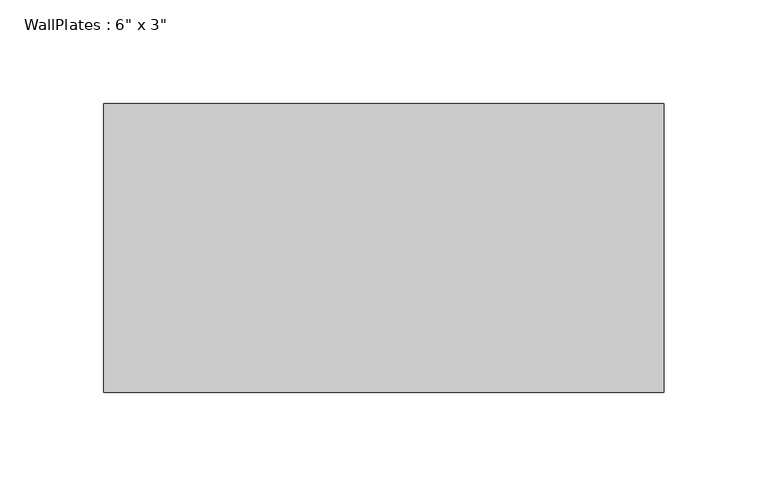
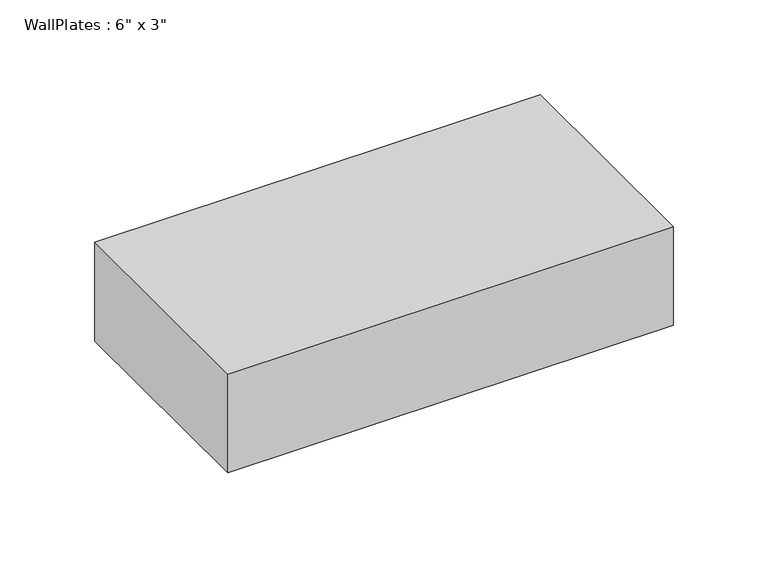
"""IFC4 building model written with IfcOpenShell, lengths in millimetres: beam geometry."""

from ifc_helpers import new_model, si_unit, frame, origin, place, context, project, spatial, polyline, outline, extrude, source, transform, mapped, element, save


def beam_3c0861fc(model_context):
    return source(origin(), model_context, "Body", "SweptSolid", [
        extrude(outline(polyline([(-135.4716667, -69.85), (-135.4716667, 69.85), (135.4716667, 69.85), (135.4716667, -69.85), (-135.4716667, -69.85)])), frame((0.0, 0.0, -31.75), z_axis=(0.0, 0.0, 1.0), x_axis=(1.0, 0.0, 0.0)), (0.0, 0.0, 1.0), 63.5),
    ])


if __name__ == "__main__":
    model = new_model("IFC4")
    model_context = context("Model", 3, world=origin())
    ifc_project = project(units=[si_unit("LENGTHUNIT", "METRE", prefix="MILLI")], contexts=[model_context])
    site = spatial("IfcSite", under=ifc_project)
    building = spatial("IfcBuilding", under=site)
    placement = place(None, origin())
    beam_shape = beam_3c0861fc(model_context)
    element("IfcBeam", 1, ObjectType="WallPlates : 6\" x 3\"", at=placement, inside=building, context=model_context, shape_type="MappedRepresentation", body=[
        mapped(beam_shape, transform((0.0, 0.0, 0.0), x_axis=(1.0, 0.0, 0.0), y_axis=(0.0, 1.0, 0.0), z_axis=(0.0, 0.0, 1.0))),
    ])
    save(model, "model.ifc")
